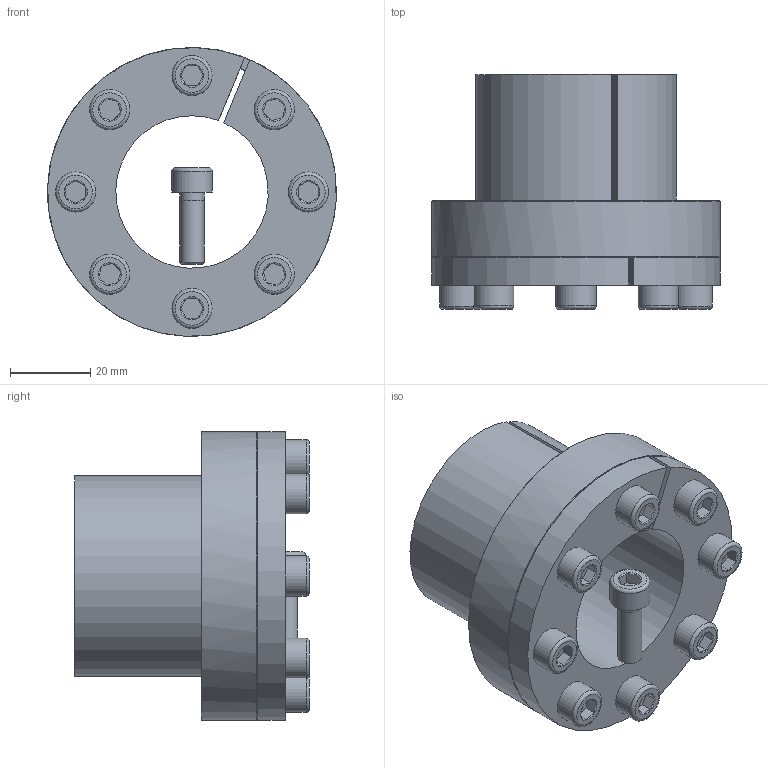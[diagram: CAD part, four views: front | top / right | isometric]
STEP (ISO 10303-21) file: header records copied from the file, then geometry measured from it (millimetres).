
FILE_DESCRIPTION( ( 'Unknown' ), '1' );
FILE_NAME( 'C:/Dokumente und Einstellungen/Sven/Desktop/homepage/cad - homepage/KBS80/KBS 80 - 38 x 50.stp', 'Unknown', ( 'Unknown' ), ( 'Unknown' ), 'XStep 1.0', 'Unknown', ' ' );
FILE_SCHEMA( ( 'automotive_design' ) );
Length unit declared in the file: millimetre
Products named in the file (10): Assem1; KBS 80 - 38 x 50; ISO EN DIN 4762 M6x18; ISO EN DIN 4762 M6x18-oa0; ISO EN DIN 4762 M6x18-oa1; ISO EN DIN 4762 M6x18-oa2; ISO EN DIN 4762 M6x18-oa3; ISO EN DIN 4762 M6x18-oa4; ISO EN DIN 4762 M6x18-oa5; ISO EN DIN 4762 M6x18-oa6
Bounding box: 72 x 58.5 x 72 mm (x, y, z)
Volume: 178671.6 mm3; surface area: 62698.6 mm2
Topology: 18 solids, 18 shells, 456 faces, 854 edges, 496 vertices
Faces by surface type: plane 208, cone 126, cylinder 90, torus 32
Full cylindrical faces by diameter (mm): 5 x16, 6 x48, 10 x16, 72 x2
Entity records: 5767 total; most frequent: CARTESIAN_POINT 1201, DIRECTION 932, ORIENTED_EDGE 682, AXIS2_PLACEMENT_3D 409, EDGE_LOOP 345, EDGE_CURVE 341, FACE_OUTER_BOUND 285, VERTEX_POINT 230
